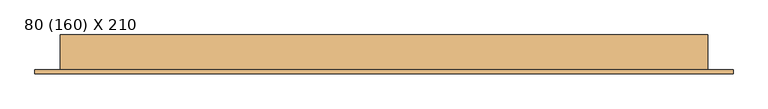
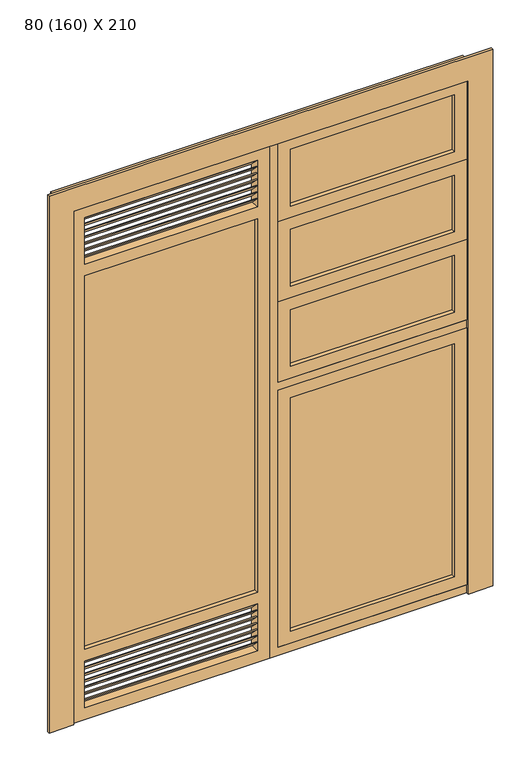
"""IFC4 building model written with IfcOpenShell, lengths in millimetres: door geometry, PORTA DE VIDRO COM GRELHA INFERIOR E SUPERIOR COM ESQUADRIA DE ABRIR - 1 FOLHA + LUZ LATERAL - 1 FOLHA FIXA + FOLHAS BASCULANTES : 80 (160) X 210."""

from ifc_helpers import new_model, si_unit, frame, origin, place, context, project, spatial, polyline, outline, extrude, faceted_brep, source, transform, mapped, element, save


def door_80_160_x_210_04e50e8b(model_context):
    return source(origin(), model_context, "Body", "SolidModel", [
        extrude(outline(polyline([(730.0, -52.0), (730.0, -58.0), (65.0, -58.0), (65.0, -52.0), (730.0, -52.0)])), frame((0.0, 0.0, 1563.3333333), z_axis=(0.0, 0.0, 1.0), x_axis=(1.0, 0.0, 0.0)), (0.0, 0.0, 1.0), 243.3333333),
        extrude(outline(polyline([(1856.6666667, 780.0), (1856.6666667, 15.0), (1513.3333333, 15.0), (1513.3333333, 780.0), (1856.6666667, 780.0)]), holes=[polyline([(1806.6666667, 730.0), (1563.3333333, 730.0), (1563.3333333, 65.0), (1806.6666667, 65.0), (1806.6666667, 730.0)])]), frame((0.0, -75.0, 0.0), z_axis=(0.0, 1.0, 0.0), x_axis=(0.0, 0.0, 1.0)), (0.0, 0.0, 1.0), 40.0),
        extrude(outline(polyline([(730.0, -52.0), (730.0, -58.0), (65.0, -58.0), (65.0, -52.0), (730.0, -52.0)])), frame((0.0, 0.0, 1906.6666667), z_axis=(0.0, 0.0, 1.0), x_axis=(1.0, 0.0, 0.0)), (0.0, 0.0, 1.0), 243.3333333),
        extrude(outline(polyline([(2200.0, 780.0), (2200.0, 15.0), (1856.6666667, 15.0), (1856.6666667, 780.0), (2200.0, 780.0)]), holes=[polyline([(2150.0, 730.0), (1906.6666667, 730.0), (1906.6666667, 65.0), (2150.0, 65.0), (2150.0, 730.0)])]), frame((0.0, -75.0, 0.0), z_axis=(0.0, 1.0, 0.0), x_axis=(0.0, 0.0, 1.0)), (0.0, 0.0, 1.0), 40.0),
        extrude(outline(polyline([(730.0, -52.0), (730.0, -58.0), (65.0, -58.0), (65.0, -52.0), (730.0, -52.0)])), frame((0.0, 0.0, 1220.0), z_axis=(0.0, 0.0, 1.0), x_axis=(1.0, 0.0, 0.0)), (0.0, 0.0, 1.0), 243.3333333),
        extrude(outline(polyline([(1513.3333333, 780.0), (1513.3333333, 15.0), (1170.0, 15.0), (1170.0, 780.0), (1513.3333333, 780.0)]), holes=[polyline([(1463.3333333, 730.0), (1220.0, 730.0), (1220.0, 65.0), (1463.3333333, 65.0), (1463.3333333, 730.0)])]), frame((0.0, -75.0, 0.0), z_axis=(0.0, 1.0, 0.0), x_axis=(0.0, 0.0, 1.0)), (0.0, 0.0, 1.0), 40.0),
        extrude(outline(polyline([(730.0, -52.0), (730.0, -58.0), (65.0, -58.0), (65.0, -52.0), (730.0, -52.0)])), frame((0.0, 0.0, 85.0), z_axis=(0.0, 0.0, 1.0), x_axis=(1.0, 0.0, 0.0)), (0.0, 0.0, 1.0), 1000.0),
        extrude(outline(polyline([(1135.0, 780.0), (1135.0, 15.0), (35.0, 15.0), (35.0, 780.0), (1135.0, 780.0)]), holes=[polyline([(1085.0, 730.0), (85.0, 730.0), (85.0, 65.0), (1085.0, 65.0), (1085.0, 730.0)])]), frame((0.0, -75.0, 0.0), z_axis=(0.0, 1.0, 0.0), x_axis=(0.0, 0.0, 1.0)), (0.0, 0.0, 1.0), 40.0),
        extrude(outline(polyline([(-40.0, 2087.5), (-75.0, 2122.5), (-70.0, 2122.5), (-35.0, 2087.5), (-40.0, 2087.5)])), frame((-770.0, 0.0, 0.0), z_axis=(1.0, 0.0, 0.0), x_axis=(0.0, 1.0, 0.0)), (0.0, 0.0, 1.0), 700.0),
        extrude(outline(polyline([(-40.0, 2060.0), (-75.0, 2095.0), (-70.0, 2095.0), (-35.0, 2060.0), (-40.0, 2060.0)])), frame((-770.0, 0.0, 0.0), z_axis=(1.0, 0.0, 0.0), x_axis=(0.0, 1.0, 0.0)), (0.0, 0.0, 1.0), 700.0),
        extrude(outline(polyline([(-40.0, 2032.5), (-75.0, 2067.5), (-70.0, 2067.5), (-35.0, 2032.5), (-40.0, 2032.5)])), frame((-770.0, 0.0, 0.0), z_axis=(1.0, 0.0, 0.0), x_axis=(0.0, 1.0, 0.0)), (0.0, 0.0, 1.0), 700.0),
        extrude(outline(polyline([(-40.0, 2005.0), (-75.0, 2040.0), (-70.0, 2040.0), (-35.0, 2005.0), (-40.0, 2005.0)])), frame((-770.0, 0.0, 0.0), z_axis=(1.0, 0.0, 0.0), x_axis=(0.0, 1.0, 0.0)), (0.0, 0.0, 1.0), 700.0),
        extrude(outline(polyline([(-40.0, 1977.5), (-75.0, 2012.5), (-70.0, 2012.5), (-35.0, 1977.5), (-40.0, 1977.5)])), frame((-770.0, 0.0, 0.0), z_axis=(1.0, 0.0, 0.0), x_axis=(0.0, 1.0, 0.0)), (0.0, 0.0, 1.0), 700.0),
        extrude(outline(polyline([(-40.0, 2115.0), (-75.0, 2150.0), (-70.0, 2150.0), (-35.0, 2115.0), (-40.0, 2115.0)])), frame((-770.0, 0.0, 0.0), z_axis=(1.0, 0.0, 0.0), x_axis=(0.0, 1.0, 0.0)), (0.0, 0.0, 1.0), 700.0),
        extrude(outline(polyline([(-40.0, 1950.0), (-75.0, 1985.0), (-70.0, 1985.0), (-35.0, 1950.0), (-40.0, 1950.0)])), frame((-770.0, 0.0, 0.0), z_axis=(1.0, 0.0, 0.0), x_axis=(0.0, 1.0, 0.0)), (0.0, 0.0, 1.0), 700.0),
        extrude(outline(polyline([(-40.0, 187.5), (-75.0, 222.5), (-70.0, 222.5), (-35.0, 187.5), (-40.0, 187.5)])), frame((-770.0, 0.0, 0.0), z_axis=(1.0, 0.0, 0.0), x_axis=(0.0, 1.0, 0.0)), (0.0, 0.0, 1.0), 700.0),
        extrude(outline(polyline([(-40.0, 160.0), (-75.0, 195.0), (-70.0, 195.0), (-35.0, 160.0), (-40.0, 160.0)])), frame((-770.0, 0.0, 0.0), z_axis=(1.0, 0.0, 0.0), x_axis=(0.0, 1.0, 0.0)), (0.0, 0.0, 1.0), 700.0),
        extrude(outline(polyline([(-40.0, 132.5), (-75.0, 167.5), (-70.0, 167.5), (-35.0, 132.5), (-40.0, 132.5)])), frame((-770.0, 0.0, 0.0), z_axis=(1.0, 0.0, 0.0), x_axis=(0.0, 1.0, 0.0)), (0.0, 0.0, 1.0), 700.0),
        extrude(outline(polyline([(-40.0, 105.0), (-75.0, 140.0), (-70.0, 140.0), (-35.0, 105.0), (-40.0, 105.0)])), frame((-770.0, 0.0, 0.0), z_axis=(1.0, 0.0, 0.0), x_axis=(0.0, 1.0, 0.0)), (0.0, 0.0, 1.0), 700.0),
        extrude(outline(polyline([(-40.0, 77.5), (-75.0, 112.5), (-70.0, 112.5), (-35.0, 77.5), (-40.0, 77.5)])), frame((-770.0, 0.0, 0.0), z_axis=(1.0, 0.0, 0.0), x_axis=(0.0, 1.0, 0.0)), (0.0, 0.0, 1.0), 700.0),
        extrude(outline(polyline([(-40.0, 215.0), (-75.0, 250.0), (-70.0, 250.0), (-35.0, 215.0), (-40.0, 215.0)])), frame((-770.0, 0.0, 0.0), z_axis=(1.0, 0.0, 0.0), x_axis=(0.0, 1.0, 0.0)), (0.0, 0.0, 1.0), 700.0),
        extrude(outline(polyline([(-40.0, 50.0), (-75.0, 85.0), (-70.0, 85.0), (-35.0, 50.0), (-40.0, 50.0)])), frame((-770.0, 0.0, 0.0), z_axis=(1.0, 0.0, 0.0), x_axis=(0.0, 1.0, 0.0)), (0.0, 0.0, 1.0), 700.0),
        extrude(outline(polyline([(-70.0, -52.0), (-70.0, -58.0), (-770.0, -58.0), (-770.0, -52.0), (-70.0, -52.0)])), frame((0.0, 0.0, 300.0), z_axis=(0.0, 0.0, 1.0), x_axis=(1.0, 0.0, 0.0)), (0.0, 0.0, 1.0), 1600.0),
        extrude(outline(polyline([(2200.0, -20.0), (2200.0, -820.0), (0.0, -820.0), (0.0, -20.0), (2200.0, -20.0)]), holes=[polyline([(2150.0, -70.0), (1950.0, -70.0), (1950.0, -770.0), (2150.0, -770.0), (2150.0, -70.0)]), polyline([(250.0, -770.0), (250.0, -70.0), (50.0, -70.0), (50.0, -770.0), (250.0, -770.0)]), polyline([(1900.0, -770.0), (1900.0, -70.0), (300.0, -70.0), (300.0, -770.0), (1900.0, -770.0)])]), frame((0.0, -75.0, 0.0), z_axis=(0.0, 1.0, 0.0), x_axis=(0.0, 0.0, 1.0)), (0.0, 0.0, 1.0), 40.0),
        extrude(outline(polyline([(2200.0, -820.0), (2200.0, 780.0), (0.0, 780.0), (0.0, 880.0), (2300.0, 880.0), (2300.0, -920.0), (0.0, -920.0), (0.0, -820.0), (2200.0, -820.0)])), frame((0.0, -85.0, 0.0), z_axis=(0.0, 1.0, 0.0), x_axis=(0.0, 0.0, 1.0)), (0.0, 0.0, 1.0), 10.0),
        faceted_brep([(15.0, -75.0, 35.0), (15.0, 15.0, 35.0), (15.0, 15.0, 1135.0), (15.0, -75.0, 1135.0), (15.0, 15.0, 2200.0), (15.0, -75.0, 2200.0), (15.0, -75.0, 1170.0), (15.0, 15.0, 1170.0), (815.0, -75.0, 0.0), (815.0, -75.0, 2235.0), (-855.0, -75.0, 2235.0), (-855.0, -75.0, 0.0), (-820.0, -75.0, 0.0), (-820.0, -75.0, 2200.0), (-20.0, -75.0, 2200.0), (-20.0, -75.0, 0.0), (780.0, -75.0, 1135.0), (780.0, -75.0, 35.0), (780.0, -75.0, 2200.0), (780.0, -75.0, 1170.0), (780.0, 15.0, 1135.0), (780.0, 15.0, 35.0), (780.0, 15.0, 2200.0), (780.0, 15.0, 1170.0), (815.0, 15.0, 0.0), (815.0, 15.0, 2235.0), (-855.0, 15.0, 0.0), (-855.0, 15.0, 2235.0), (-810.0, 15.0, 0.0), (-810.0, -35.0, 0.0), (-820.0, -35.0, 0.0), (-820.0, -35.0, 2200.0), (-20.0, -35.0, 2200.0), (-20.0, -35.0, 0.0), (-30.0, -35.0, 0.0), (-30.0, 15.0, 0.0), (-30.0, 15.0, 2190.0), (-810.0, 15.0, 2190.0), (-30.0, -35.0, 2190.0), (-810.0, -35.0, 2190.0)], [[[0, 1, 2, 3]], [[4, 5, 6, 7]], [[8, 9, 10, 11, 12, 13, 14, 15], [0, 3, 16, 17], [5, 18, 19, 6]], [[2, 20, 16, 3]], [[21, 17, 16, 20]], [[18, 22, 23, 19]], [[0, 17, 21, 1]], [[23, 7, 6, 19]], [[9, 8, 24, 25]], [[26, 11, 10, 27]], [[26, 28, 29, 30, 12, 11]], [[12, 30, 31, 13]], [[32, 33, 15, 14]], [[24, 8, 15, 33, 34, 35]], [[25, 24, 35, 36, 37, 28, 26, 27], [4, 7, 23, 22], [1, 21, 20, 2]], [[36, 35, 34, 38]], [[29, 28, 37, 39]], [[30, 29, 39, 38, 34, 33, 32, 31]], [[18, 5, 4, 22]], [[9, 25, 27, 10]], [[37, 36, 38, 39]], [[31, 32, 14, 13]]]),
    ])


if __name__ == "__main__":
    model = new_model("IFC4")
    model_context = context("Model", 3, world=origin())
    ifc_project = project(units=[si_unit("LENGTHUNIT", "METRE", prefix="MILLI")], contexts=[model_context])
    site = spatial("IfcSite", under=ifc_project)
    building = spatial("IfcBuilding", under=site)
    placement = place(None, origin())
    door_80_160_x_210_shape = door_80_160_x_210_04e50e8b(model_context)
    element("IfcDoor", 1, ObjectType="PORTA DE VIDRO COM GRELHA INFERIOR E SUPERIOR COM ESQUADRIA DE ABRIR - 1 FOLHA + LUZ LATERAL - 1 FOLHA FIXA + FOLHAS BASCULANTES : 80 (160) X 210", at=placement, inside=building, context=model_context, shape_type="MappedRepresentation", body=[
        mapped(door_80_160_x_210_shape, transform((0.0, 0.0, 0.0), x_axis=(1.0, 0.0, 0.0), y_axis=(0.0, 1.0, 0.0), z_axis=(0.0, 0.0, 1.0))),
    ])
    save(model, "model.ifc")
